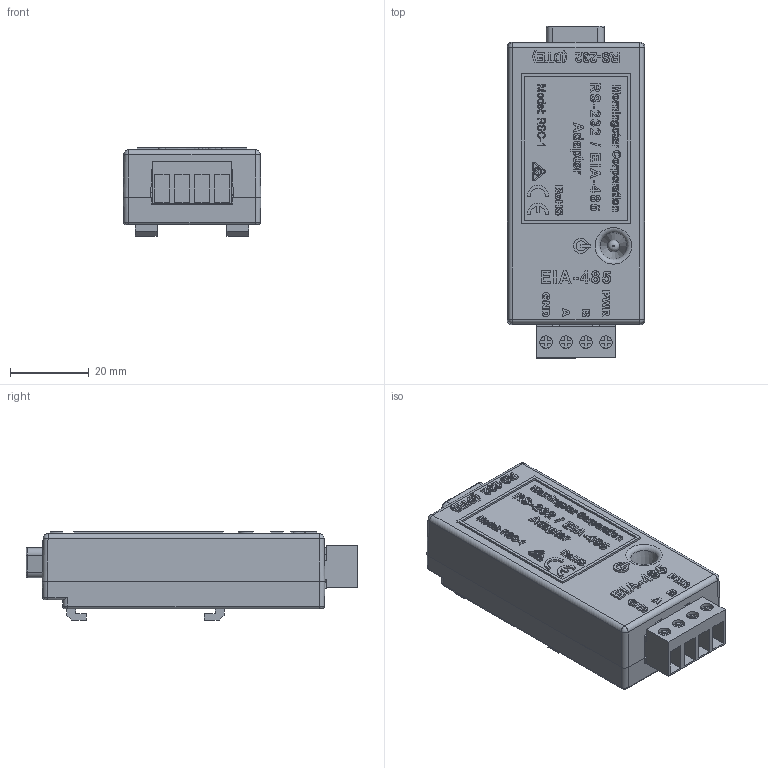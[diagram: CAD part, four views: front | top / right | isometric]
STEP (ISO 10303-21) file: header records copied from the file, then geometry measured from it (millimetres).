
FILE_DESCRIPTION(/* description */ ('Unknown'),/* implementation_level */ '2;1');
FILE_NAME(/* name */ 'RSC',/* time_stamp */ '2018-10-12T14:11:25-04:00',/* author */ ('Unknown'),/* organization */ ('Unknown'),/* preprocessor_version */ 'ST-DEVELOPER v16.7',/* originating_system */ 'DEX',/* authorisation */ $);
FILE_SCHEMA (('AUTOMOTIVE_DESIGN {1 0 10303 214 3 1 1}'));
Length unit declared in the file: millimetre
Products named in the file (9): MS-ASM-00058_simple; MS-000956_simple; RS485-pcb_v2; 4_POS_0.200Pitch_90deg_term_socket; T1 Bi-color LED; DB9-right_angle; 4_POS_0.200Pitch_90deg_term; MS-000955_simple
Assembly tree (8 placements, depth 3):
  MS-ASM-00058_simple
    MS-000956_simple
    RS485-pcb_v2
      RS485-pcb_v2
      4_POS_0.200Pitch_90deg_term_socket
      T1 Bi-color LED
      DB9-right_angle
      4_POS_0.200Pitch_90deg_term
    MS-000955_simple
Bounding box: 35.05 x 84.45 x 22.48 mm (x, y, z)
Volume: 20447.1 mm3; surface area: 27584.1 mm2
Topology: 7 solids, 7 shells, 1178 faces, 2945 edges, 1915 vertices
Faces by surface type: plane 854, bspline 186, cylinder 114, torus 14, cone 6, sphere 4
Full cylindrical faces by diameter (mm): 0.508 x7, 1.016 x19, 1.143 x9, 2.54 x2, 2.997 x1, 3.048 x2, 3.099 x2, 3.175 x4, 3.302 x2, 4.064 x1
Entity records: 43030 total; most frequent: CARTESIAN_POINT 16208, ORIENTED_EDGE 5616, DIRECTION 4773, EDGE_CURVE 2808, LINE 2161, VECTOR 2161, VERTEX_POINT 1892, EDGE_LOOP 1458
